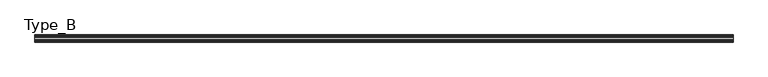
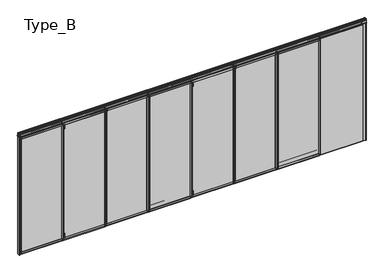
"""IFC4 building model written with IfcOpenShell, lengths in millimetres: proxy geometry, Planner Wall_ダブルガラス(NO Door) : Type_B."""

from ifc_helpers import new_model, si_unit, point, frame, frame_2d, origin, origin_with_axes, place, context, project, spatial, polyline, circle_curve, trimmed, segment, composite_curve, outline, extrude, source, transform, mapped, element, save


def type_b_6e2a2145(model_context):
    return source(origin(), model_context, "Body", "SweptSolid", [
        extrude(outline(polyline([(-2223.5, -25.0), (-2223.5, 25.0), (-1206.375, 25.0), (-1206.375, -25.0), (-2223.5, -25.0)])), origin_with_axes(), (0.0, 0.0, 1.0), 65.0),
        extrude(outline(polyline([(-1222.875, 25.0), (-2201.5, 25.0), (-2201.5, 35.0), (-1222.875, 35.0), (-1222.875, 25.0)])), frame((0.0, 0.0, 2935.0), z_axis=(0.0, 0.0, 1.0), x_axis=(1.0, 0.0, 0.0)), (0.0, 0.0, 1.0), 40.0),
        extrude(outline(polyline([(-1222.875, 25.0), (-2201.5, 25.0), (-2201.5, 35.0), (-1222.875, 35.0), (-1222.875, 25.0)])), frame((0.0, 0.0, 25.0), z_axis=(0.0, 0.0, 1.0), x_axis=(1.0, 0.0, 0.0)), (0.0, 0.0, 1.0), 40.0),
        extrude(outline(polyline([(-2183.5, -27.0), (-2201.5, -27.0), (-2201.5, 27.0), (-2183.5, 27.0), (-2183.5, -27.0)])), frame((0.0, 0.0, 65.0), z_axis=(0.0, 0.0, 1.0), x_axis=(1.0, 0.0, 0.0)), (0.0, 0.0, 1.0), 2870.0),
        extrude(outline(polyline([(-1222.875, -27.0), (-1240.875, -27.0), (-1240.875, 27.0), (-1222.875, 27.0), (-1222.875, -27.0)])), frame((0.0, 0.0, 65.0), z_axis=(0.0, 0.0, 1.0), x_axis=(1.0, 0.0, 0.0)), (0.0, 0.0, 1.0), 2870.0),
        extrude(outline(polyline([(-1240.875, -27.0), (-2183.5, -27.0), (-2183.5, 27.0), (-1240.875, 27.0), (-1240.875, -27.0)])), frame((0.0, 0.0, 65.0), z_axis=(0.0, 0.0, 1.0), x_axis=(1.0, 0.0, 0.0)), (0.0, 0.0, 1.0), 102.0),
        extrude(outline(polyline([(-1240.875, -27.0), (-2183.5, -27.0), (-2183.5, 27.0), (-1240.875, 27.0), (-1240.875, -27.0)])), frame((0.0, 0.0, 2833.0), z_axis=(0.0, 0.0, 1.0), x_axis=(1.0, 0.0, 0.0)), (0.0, 0.0, 1.0), 102.0),
        extrude(outline(composite_curve([segment(polyline([(23.5, 3050.1000003), (26.5, 3047.1000003), (26.5, 3032.6)]), True, "CONTINUOUS"), segment(trimmed(circle_curve(frame_2d((25.0, 3032.6)), 1.5), [point((26.5, 3032.6))], [point((25.0, 3031.1))], False, "CARTESIAN"), True, "CONTINUOUS"), segment(polyline([(25.0, 3031.1), (9.0, 3031.1), (9.0, 3019.1000003), (23.5, 3019.1000003), (26.5, 3016.1000003), (26.5, 3001.5)]), True, "CONTINUOUS"), segment(trimmed(circle_curve(frame_2d((25.0, 3001.5)), 1.5), [point((26.5, 3001.5))], [point((25.0, 3000.0))], False, "CARTESIAN"), True, "CONTINUOUS"), segment(polyline([(25.0, 3000.0), (7.5, 3000.0), (7.5, 2994.5), (25.0, 2994.5), (25.0, 2935.0), (-25.0, 2935.0), (-25.0, 2994.5), (-7.5, 2994.5), (-7.5, 3000.0), (-25.0, 3000.0)]), True, "CONTINUOUS"), segment(trimmed(circle_curve(frame_2d((-25.0, 3001.5)), 1.5), [point((-25.0, 3000.0))], [point((-26.5, 3001.5))], False, "CARTESIAN"), True, "CONTINUOUS"), segment(polyline([(-26.5, 3001.5), (-26.5, 3016.1000003), (-23.5, 3019.1000003), (-9.0, 3019.1000003), (-9.0, 3031.1), (-25.0, 3031.1)]), True, "CONTINUOUS"), segment(trimmed(circle_curve(frame_2d((-25.0, 3032.6)), 1.5), [point((-25.0, 3031.1))], [point((-26.5, 3032.6))], False, "CARTESIAN"), True, "CONTINUOUS"), segment(polyline([(-26.5, 3032.6), (-26.5, 3047.1000003), (-23.5, 3050.1000003), (23.5, 3050.1000003)]), True, "CONTINUOUS")], self_intersect=False)), frame((-2223.5, 0.0, 0.0), z_axis=(1.0, 0.0, 0.0), x_axis=(0.0, 1.0, 0.0)), (0.0, 0.0, 1.0), 1022.625),
        extrude(outline(polyline([(-1222.875, 27.5), (-2201.5, 27.5), (-2201.5, 32.5), (-1222.875, 32.5), (-1222.875, 27.5)])), frame((0.0, 0.0, 65.0), z_axis=(0.0, 0.0, 1.0), x_axis=(1.0, 0.0, 0.0)), (0.0, 0.0, 1.0), 2870.0),
        extrude(outline(polyline([(-1222.875, -32.5), (-2201.5, -32.5), (-2201.5, -27.5), (-1222.875, -27.5), (-1222.875, -32.5)])), frame((0.0, 0.0, 65.0), z_axis=(0.0, 0.0, 1.0), x_axis=(1.0, 0.0, 0.0)), (0.0, 0.0, 1.0), 2870.0),
        extrude(outline(polyline([(-1222.875, -35.0), (-2201.5, -35.0), (-2201.5, -25.0), (-1222.875, -25.0), (-1222.875, -35.0)])), frame((0.0, 0.0, 2935.0), z_axis=(0.0, 0.0, 1.0), x_axis=(1.0, 0.0, 0.0)), (0.0, 0.0, 1.0), 40.0),
        extrude(outline(polyline([(-1222.875, -35.0), (-2201.5, -35.0), (-2201.5, -25.0), (-1222.875, -25.0), (-1222.875, -35.0)])), frame((0.0, 0.0, 25.0), z_axis=(0.0, 0.0, 1.0), x_axis=(1.0, 0.0, 0.0)), (0.0, 0.0, 1.0), 40.0),
        extrude(outline(polyline([(-2237.0, -25.0), (-2237.0, 25.0), (-2223.5, 25.0), (-2223.5, -25.0), (-2237.0, -25.0)])), frame((0.0, 0.0, 53.0), z_axis=(0.0, 0.0, 1.0), x_axis=(1.0, 0.0, 0.0)), (0.0, 0.0, 1.0), 2869.0),
        extrude(outline(polyline([(-1222.875, 35.0), (-1200.875, 35.0), (-1200.875, 25.0), (-1222.875, 25.0), (-1222.875, 35.0)])), frame((0.0, 0.0, 25.0), z_axis=(0.0, 0.0, 1.0), x_axis=(1.0, 0.0, 0.0)), (0.0, 0.0, 1.0), 2950.0),
        extrude(outline(polyline([(-1222.875, -35.0), (-1222.875, -25.0), (-1200.875, -25.0), (-1200.875, -35.0), (-1222.875, -35.0)])), frame((0.0, 0.0, 25.0), z_axis=(0.0, 0.0, 1.0), x_axis=(1.0, 0.0, 0.0)), (0.0, 0.0, 1.0), 2950.0),
        extrude(outline(polyline([(-2223.5, -35.0), (-2223.5, -25.0), (-2201.5, -25.0), (-2201.5, -35.0), (-2223.5, -35.0)])), frame((0.0, 0.0, 25.0), z_axis=(0.0, 0.0, 1.0), x_axis=(1.0, 0.0, 0.0)), (0.0, 0.0, 1.0), 2950.0),
        extrude(outline(polyline([(-2223.5, 25.0), (-2223.5, 35.0), (-2201.5, 35.0), (-2201.5, 25.0), (-2223.5, 25.0)])), frame((0.0, 0.0, 25.0), z_axis=(0.0, 0.0, 1.0), x_axis=(1.0, 0.0, 0.0)), (0.0, 0.0, 1.0), 2950.0),
        extrude(outline(polyline([(-1192.875, -25.0), (-1192.875, 25.0), (-175.75, 25.0), (-175.75, -25.0), (-1192.875, -25.0)])), origin_with_axes(), (0.0, 0.0, 1.0), 65.0),
        extrude(outline(polyline([(-192.25, 25.0), (-1170.875, 25.0), (-1170.875, 35.0), (-192.25, 35.0), (-192.25, 25.0)])), frame((0.0, 0.0, 2935.0), z_axis=(0.0, 0.0, 1.0), x_axis=(1.0, 0.0, 0.0)), (0.0, 0.0, 1.0), 40.0),
        extrude(outline(polyline([(-192.25, 25.0), (-1170.875, 25.0), (-1170.875, 35.0), (-192.25, 35.0), (-192.25, 25.0)])), frame((0.0, 0.0, 25.0), z_axis=(0.0, 0.0, 1.0), x_axis=(1.0, 0.0, 0.0)), (0.0, 0.0, 1.0), 40.0),
        extrude(outline(polyline([(-1152.875, -27.0), (-1170.875, -27.0), (-1170.875, 27.0), (-1152.875, 27.0), (-1152.875, -27.0)])), frame((0.0, 0.0, 65.0), z_axis=(0.0, 0.0, 1.0), x_axis=(1.0, 0.0, 0.0)), (0.0, 0.0, 1.0), 2870.0),
        extrude(outline(polyline([(-192.25, -27.0), (-210.25, -27.0), (-210.25, 27.0), (-192.25, 27.0), (-192.25, -27.0)])), frame((0.0, 0.0, 65.0), z_axis=(0.0, 0.0, 1.0), x_axis=(1.0, 0.0, 0.0)), (0.0, 0.0, 1.0), 2870.0),
        extrude(outline(polyline([(-210.25, -27.0), (-1152.875, -27.0), (-1152.875, 27.0), (-210.25, 27.0), (-210.25, -27.0)])), frame((0.0, 0.0, 65.0), z_axis=(0.0, 0.0, 1.0), x_axis=(1.0, 0.0, 0.0)), (0.0, 0.0, 1.0), 102.0),
        extrude(outline(polyline([(-210.25, -27.0), (-1152.875, -27.0), (-1152.875, 27.0), (-210.25, 27.0), (-210.25, -27.0)])), frame((0.0, 0.0, 2833.0), z_axis=(0.0, 0.0, 1.0), x_axis=(1.0, 0.0, 0.0)), (0.0, 0.0, 1.0), 102.0),
        extrude(outline(composite_curve([segment(polyline([(23.5, 3050.1000003), (26.5, 3047.1000003), (26.5, 3032.6)]), True, "CONTINUOUS"), segment(trimmed(circle_curve(frame_2d((25.0, 3032.6)), 1.5), [point((26.5, 3032.6))], [point((25.0, 3031.1))], False, "CARTESIAN"), True, "CONTINUOUS"), segment(polyline([(25.0, 3031.1), (9.0, 3031.1), (9.0, 3019.1000003), (23.5, 3019.1000003), (26.5, 3016.1000003), (26.5, 3001.5)]), True, "CONTINUOUS"), segment(trimmed(circle_curve(frame_2d((25.0, 3001.5)), 1.5), [point((26.5, 3001.5))], [point((25.0, 3000.0))], False, "CARTESIAN"), True, "CONTINUOUS"), segment(polyline([(25.0, 3000.0), (7.5, 3000.0), (7.5, 2994.5), (25.0, 2994.5), (25.0, 2935.0), (-25.0, 2935.0), (-25.0, 2994.5), (-7.5, 2994.5), (-7.5, 3000.0), (-25.0, 3000.0)]), True, "CONTINUOUS"), segment(trimmed(circle_curve(frame_2d((-25.0, 3001.5)), 1.5), [point((-25.0, 3000.0))], [point((-26.5, 3001.5))], False, "CARTESIAN"), True, "CONTINUOUS"), segment(polyline([(-26.5, 3001.5), (-26.5, 3016.1000003), (-23.5, 3019.1000003), (-9.0, 3019.1000003), (-9.0, 3031.1), (-25.0, 3031.1)]), True, "CONTINUOUS"), segment(trimmed(circle_curve(frame_2d((-25.0, 3032.6)), 1.5), [point((-25.0, 3031.1))], [point((-26.5, 3032.6))], False, "CARTESIAN"), True, "CONTINUOUS"), segment(polyline([(-26.5, 3032.6), (-26.5, 3047.1000003), (-23.5, 3050.1000003), (23.5, 3050.1000003)]), True, "CONTINUOUS")], self_intersect=False)), frame((-1192.875, 0.0, 0.0), z_axis=(1.0, 0.0, 0.0), x_axis=(0.0, 1.0, 0.0)), (0.0, 0.0, 1.0), 1022.625),
        extrude(outline(polyline([(-192.25, 27.5), (-1170.875, 27.5), (-1170.875, 32.5), (-192.25, 32.5), (-192.25, 27.5)])), frame((0.0, 0.0, 65.0), z_axis=(0.0, 0.0, 1.0), x_axis=(1.0, 0.0, 0.0)), (0.0, 0.0, 1.0), 2870.0),
        extrude(outline(polyline([(-192.25, -32.5), (-1170.875, -32.5), (-1170.875, -27.5), (-192.25, -27.5), (-192.25, -32.5)])), frame((0.0, 0.0, 65.0), z_axis=(0.0, 0.0, 1.0), x_axis=(1.0, 0.0, 0.0)), (0.0, 0.0, 1.0), 2870.0),
        extrude(outline(polyline([(-192.25, -35.0), (-1170.875, -35.0), (-1170.875, -25.0), (-192.25, -25.0), (-192.25, -35.0)])), frame((0.0, 0.0, 2935.0), z_axis=(0.0, 0.0, 1.0), x_axis=(1.0, 0.0, 0.0)), (0.0, 0.0, 1.0), 40.0),
        extrude(outline(polyline([(-192.25, -35.0), (-1170.875, -35.0), (-1170.875, -25.0), (-192.25, -25.0), (-192.25, -35.0)])), frame((0.0, 0.0, 25.0), z_axis=(0.0, 0.0, 1.0), x_axis=(1.0, 0.0, 0.0)), (0.0, 0.0, 1.0), 40.0),
        extrude(outline(polyline([(-1206.375, -25.0), (-1206.375, 25.0), (-1192.875, 25.0), (-1192.875, -25.0), (-1206.375, -25.0)])), frame((0.0, 0.0, 53.0), z_axis=(0.0, 0.0, 1.0), x_axis=(1.0, 0.0, 0.0)), (0.0, 0.0, 1.0), 2869.0),
        extrude(outline(polyline([(-192.25, 35.0), (-170.25, 35.0), (-170.25, 25.0), (-192.25, 25.0), (-192.25, 35.0)])), frame((0.0, 0.0, 25.0), z_axis=(0.0, 0.0, 1.0), x_axis=(1.0, 0.0, 0.0)), (0.0, 0.0, 1.0), 2950.0),
        extrude(outline(polyline([(-192.25, -35.0), (-192.25, -25.0), (-170.25, -25.0), (-170.25, -35.0), (-192.25, -35.0)])), frame((0.0, 0.0, 25.0), z_axis=(0.0, 0.0, 1.0), x_axis=(1.0, 0.0, 0.0)), (0.0, 0.0, 1.0), 2950.0),
        extrude(outline(polyline([(-1192.875, -35.0), (-1192.875, -25.0), (-1170.875, -25.0), (-1170.875, -35.0), (-1192.875, -35.0)])), frame((0.0, 0.0, 25.0), z_axis=(0.0, 0.0, 1.0), x_axis=(1.0, 0.0, 0.0)), (0.0, 0.0, 1.0), 2950.0),
        extrude(outline(polyline([(-1192.875, 25.0), (-1192.875, 35.0), (-1170.875, 35.0), (-1170.875, 25.0), (-1192.875, 25.0)])), frame((0.0, 0.0, 25.0), z_axis=(0.0, 0.0, 1.0), x_axis=(1.0, 0.0, 0.0)), (0.0, 0.0, 1.0), 2950.0),
        extrude(outline(polyline([(-162.25, -25.0), (-162.25, 25.0), (854.875, 25.0), (854.875, -25.0), (-162.25, -25.0)])), origin_with_axes(), (0.0, 0.0, 1.0), 65.0),
        extrude(outline(polyline([(838.375, 25.0), (-140.25, 25.0), (-140.25, 35.0), (838.375, 35.0), (838.375, 25.0)])), frame((0.0, 0.0, 2935.0), z_axis=(0.0, 0.0, 1.0), x_axis=(1.0, 0.0, 0.0)), (0.0, 0.0, 1.0), 40.0),
        extrude(outline(polyline([(838.375, 25.0), (-140.25, 25.0), (-140.25, 35.0), (838.375, 35.0), (838.375, 25.0)])), frame((0.0, 0.0, 25.0), z_axis=(0.0, 0.0, 1.0), x_axis=(1.0, 0.0, 0.0)), (0.0, 0.0, 1.0), 40.0),
        extrude(outline(polyline([(-122.25, -27.0), (-140.25, -27.0), (-140.25, 27.0), (-122.25, 27.0), (-122.25, -27.0)])), frame((0.0, 0.0, 65.0), z_axis=(0.0, 0.0, 1.0), x_axis=(1.0, 0.0, 0.0)), (0.0, 0.0, 1.0), 2870.0),
        extrude(outline(polyline([(838.375, -27.0), (820.375, -27.0), (820.375, 27.0), (838.375, 27.0), (838.375, -27.0)])), frame((0.0, 0.0, 65.0), z_axis=(0.0, 0.0, 1.0), x_axis=(1.0, 0.0, 0.0)), (0.0, 0.0, 1.0), 2870.0),
        extrude(outline(polyline([(820.375, -27.0), (-122.25, -27.0), (-122.25, 27.0), (820.375, 27.0), (820.375, -27.0)])), frame((0.0, 0.0, 65.0), z_axis=(0.0, 0.0, 1.0), x_axis=(1.0, 0.0, 0.0)), (0.0, 0.0, 1.0), 102.0),
        extrude(outline(polyline([(820.375, -27.0), (-122.25, -27.0), (-122.25, 27.0), (820.375, 27.0), (820.375, -27.0)])), frame((0.0, 0.0, 2833.0), z_axis=(0.0, 0.0, 1.0), x_axis=(1.0, 0.0, 0.0)), (0.0, 0.0, 1.0), 102.0),
        extrude(outline(composite_curve([segment(polyline([(23.5, 3050.1000003), (26.5, 3047.1000003), (26.5, 3032.6)]), True, "CONTINUOUS"), segment(trimmed(circle_curve(frame_2d((25.0, 3032.6)), 1.5), [point((26.5, 3032.6))], [point((25.0, 3031.1))], False, "CARTESIAN"), True, "CONTINUOUS"), segment(polyline([(25.0, 3031.1), (9.0, 3031.1), (9.0, 3019.1000003), (23.5, 3019.1000003), (26.5, 3016.1000003), (26.5, 3001.5)]), True, "CONTINUOUS"), segment(trimmed(circle_curve(frame_2d((25.0, 3001.5)), 1.5), [point((26.5, 3001.5))], [point((25.0, 3000.0))], False, "CARTESIAN"), True, "CONTINUOUS"), segment(polyline([(25.0, 3000.0), (7.5, 3000.0), (7.5, 2994.5), (25.0, 2994.5), (25.0, 2935.0), (-25.0, 2935.0), (-25.0, 2994.5), (-7.5, 2994.5), (-7.5, 3000.0), (-25.0, 3000.0)]), True, "CONTINUOUS"), segment(trimmed(circle_curve(frame_2d((-25.0, 3001.5)), 1.5), [point((-25.0, 3000.0))], [point((-26.5, 3001.5))], False, "CARTESIAN"), True, "CONTINUOUS"), segment(polyline([(-26.5, 3001.5), (-26.5, 3016.1000003), (-23.5, 3019.1000003), (-9.0, 3019.1000003), (-9.0, 3031.1), (-25.0, 3031.1)]), True, "CONTINUOUS"), segment(trimmed(circle_curve(frame_2d((-25.0, 3032.6)), 1.5), [point((-25.0, 3031.1))], [point((-26.5, 3032.6))], False, "CARTESIAN"), True, "CONTINUOUS"), segment(polyline([(-26.5, 3032.6), (-26.5, 3047.1000003), (-23.5, 3050.1000003), (23.5, 3050.1000003)]), True, "CONTINUOUS")], self_intersect=False)), frame((-162.25, 0.0, 0.0), z_axis=(1.0, 0.0, 0.0), x_axis=(0.0, 1.0, 0.0)), (0.0, 0.0, 1.0), 1022.625),
        extrude(outline(polyline([(838.375, 27.5), (-140.25, 27.5), (-140.25, 32.5), (838.375, 32.5), (838.375, 27.5)])), frame((0.0, 0.0, 65.0), z_axis=(0.0, 0.0, 1.0), x_axis=(1.0, 0.0, 0.0)), (0.0, 0.0, 1.0), 2870.0),
        extrude(outline(polyline([(838.375, -32.5), (-140.25, -32.5), (-140.25, -27.5), (838.375, -27.5), (838.375, -32.5)])), frame((0.0, 0.0, 65.0), z_axis=(0.0, 0.0, 1.0), x_axis=(1.0, 0.0, 0.0)), (0.0, 0.0, 1.0), 2870.0),
        extrude(outline(polyline([(838.375, -35.0), (-140.25, -35.0), (-140.25, -25.0), (838.375, -25.0), (838.375, -35.0)])), frame((0.0, 0.0, 2935.0), z_axis=(0.0, 0.0, 1.0), x_axis=(1.0, 0.0, 0.0)), (0.0, 0.0, 1.0), 40.0),
        extrude(outline(polyline([(838.375, -35.0), (-140.25, -35.0), (-140.25, -25.0), (838.375, -25.0), (838.375, -35.0)])), frame((0.0, 0.0, 25.0), z_axis=(0.0, 0.0, 1.0), x_axis=(1.0, 0.0, 0.0)), (0.0, 0.0, 1.0), 40.0),
        extrude(outline(polyline([(-175.75, -25.0), (-175.75, 25.0), (-162.25, 25.0), (-162.25, -25.0), (-175.75, -25.0)])), frame((0.0, 0.0, 53.0), z_axis=(0.0, 0.0, 1.0), x_axis=(1.0, 0.0, 0.0)), (0.0, 0.0, 1.0), 2869.0),
        extrude(outline(polyline([(838.375, 35.0), (860.375, 35.0), (860.375, 25.0), (838.375, 25.0), (838.375, 35.0)])), frame((0.0, 0.0, 25.0), z_axis=(0.0, 0.0, 1.0), x_axis=(1.0, 0.0, 0.0)), (0.0, 0.0, 1.0), 2950.0),
        extrude(outline(polyline([(838.375, -35.0), (838.375, -25.0), (860.375, -25.0), (860.375, -35.0), (838.375, -35.0)])), frame((0.0, 0.0, 25.0), z_axis=(0.0, 0.0, 1.0), x_axis=(1.0, 0.0, 0.0)), (0.0, 0.0, 1.0), 2950.0),
        extrude(outline(polyline([(-162.25, -35.0), (-162.25, -25.0), (-140.25, -25.0), (-140.25, -35.0), (-162.25, -35.0)])), frame((0.0, 0.0, 25.0), z_axis=(0.0, 0.0, 1.0), x_axis=(1.0, 0.0, 0.0)), (0.0, 0.0, 1.0), 2950.0),
        extrude(outline(polyline([(-162.25, 25.0), (-162.25, 35.0), (-140.25, 35.0), (-140.25, 25.0), (-162.25, 25.0)])), frame((0.0, 0.0, 25.0), z_axis=(0.0, 0.0, 1.0), x_axis=(1.0, 0.0, 0.0)), (0.0, 0.0, 1.0), 2950.0),
        extrude(outline(polyline([(868.375, -25.0), (868.375, 25.0), (1885.5, 25.0), (1885.5, -25.0), (868.375, -25.0)])), origin_with_axes(), (0.0, 0.0, 1.0), 65.0),
        extrude(outline(polyline([(1869.0, 25.0), (890.375, 25.0), (890.375, 35.0), (1869.0, 35.0), (1869.0, 25.0)])), frame((0.0, 0.0, 2935.0), z_axis=(0.0, 0.0, 1.0), x_axis=(1.0, 0.0, 0.0)), (0.0, 0.0, 1.0), 40.0),
        extrude(outline(polyline([(1869.0, 25.0), (890.375, 25.0), (890.375, 35.0), (1869.0, 35.0), (1869.0, 25.0)])), frame((0.0, 0.0, 25.0), z_axis=(0.0, 0.0, 1.0), x_axis=(1.0, 0.0, 0.0)), (0.0, 0.0, 1.0), 40.0),
        extrude(outline(polyline([(908.375, -27.0), (890.375, -27.0), (890.375, 27.0), (908.375, 27.0), (908.375, -27.0)])), frame((0.0, 0.0, 65.0), z_axis=(0.0, 0.0, 1.0), x_axis=(1.0, 0.0, 0.0)), (0.0, 0.0, 1.0), 2870.0),
        extrude(outline(polyline([(1869.0, -27.0), (1851.0, -27.0), (1851.0, 27.0), (1869.0, 27.0), (1869.0, -27.0)])), frame((0.0, 0.0, 65.0), z_axis=(0.0, 0.0, 1.0), x_axis=(1.0, 0.0, 0.0)), (0.0, 0.0, 1.0), 2870.0),
        extrude(outline(polyline([(1851.0, -27.0), (908.375, -27.0), (908.375, 27.0), (1851.0, 27.0), (1851.0, -27.0)])), frame((0.0, 0.0, 65.0), z_axis=(0.0, 0.0, 1.0), x_axis=(1.0, 0.0, 0.0)), (0.0, 0.0, 1.0), 102.0),
        extrude(outline(polyline([(1851.0, -27.0), (908.375, -27.0), (908.375, 27.0), (1851.0, 27.0), (1851.0, -27.0)])), frame((0.0, 0.0, 2833.0), z_axis=(0.0, 0.0, 1.0), x_axis=(1.0, 0.0, 0.0)), (0.0, 0.0, 1.0), 102.0),
        extrude(outline(composite_curve([segment(polyline([(23.5, 3050.1000003), (26.5, 3047.1000003), (26.5, 3032.6)]), True, "CONTINUOUS"), segment(trimmed(circle_curve(frame_2d((25.0, 3032.6)), 1.5), [point((26.5, 3032.6))], [point((25.0, 3031.1))], False, "CARTESIAN"), True, "CONTINUOUS"), segment(polyline([(25.0, 3031.1), (9.0, 3031.1), (9.0, 3019.1000003), (23.5, 3019.1000003), (26.5, 3016.1000003), (26.5, 3001.5)]), True, "CONTINUOUS"), segment(trimmed(circle_curve(frame_2d((25.0, 3001.5)), 1.5), [point((26.5, 3001.5))], [point((25.0, 3000.0))], False, "CARTESIAN"), True, "CONTINUOUS"), segment(polyline([(25.0, 3000.0), (7.5, 3000.0), (7.5, 2994.5), (25.0, 2994.5), (25.0, 2935.0), (-25.0, 2935.0), (-25.0, 2994.5), (-7.5, 2994.5), (-7.5, 3000.0), (-25.0, 3000.0)]), True, "CONTINUOUS"), segment(trimmed(circle_curve(frame_2d((-25.0, 3001.5)), 1.5), [point((-25.0, 3000.0))], [point((-26.5, 3001.5))], False, "CARTESIAN"), True, "CONTINUOUS"), segment(polyline([(-26.5, 3001.5), (-26.5, 3016.1000003), (-23.5, 3019.1000003), (-9.0, 3019.1000003), (-9.0, 3031.1), (-25.0, 3031.1)]), True, "CONTINUOUS"), segment(trimmed(circle_curve(frame_2d((-25.0, 3032.6)), 1.5), [point((-25.0, 3031.1))], [point((-26.5, 3032.6))], False, "CARTESIAN"), True, "CONTINUOUS"), segment(polyline([(-26.5, 3032.6), (-26.5, 3047.1000003), (-23.5, 3050.1000003), (23.5, 3050.1000003)]), True, "CONTINUOUS")], self_intersect=False)), frame((868.375, 0.0, 0.0), z_axis=(1.0, 0.0, 0.0), x_axis=(0.0, 1.0, 0.0)), (0.0, 0.0, 1.0), 1022.625),
        extrude(outline(polyline([(1869.0, 27.5), (890.375, 27.5), (890.375, 32.5), (1869.0, 32.5), (1869.0, 27.5)])), frame((0.0, 0.0, 65.0), z_axis=(0.0, 0.0, 1.0), x_axis=(1.0, 0.0, 0.0)), (0.0, 0.0, 1.0), 2870.0),
        extrude(outline(polyline([(1869.0, -32.5), (890.375, -32.5), (890.375, -27.5), (1869.0, -27.5), (1869.0, -32.5)])), frame((0.0, 0.0, 65.0), z_axis=(0.0, 0.0, 1.0), x_axis=(1.0, 0.0, 0.0)), (0.0, 0.0, 1.0), 2870.0),
        extrude(outline(polyline([(1869.0, -35.0), (890.375, -35.0), (890.375, -25.0), (1869.0, -25.0), (1869.0, -35.0)])), frame((0.0, 0.0, 2935.0), z_axis=(0.0, 0.0, 1.0), x_axis=(1.0, 0.0, 0.0)), (0.0, 0.0, 1.0), 40.0),
        extrude(outline(polyline([(1869.0, -35.0), (890.375, -35.0), (890.375, -25.0), (1869.0, -25.0), (1869.0, -35.0)])), frame((0.0, 0.0, 25.0), z_axis=(0.0, 0.0, 1.0), x_axis=(1.0, 0.0, 0.0)), (0.0, 0.0, 1.0), 40.0),
        extrude(outline(polyline([(854.875, -25.0), (854.875, 25.0), (868.375, 25.0), (868.375, -25.0), (854.875, -25.0)])), frame((0.0, 0.0, 53.0), z_axis=(0.0, 0.0, 1.0), x_axis=(1.0, 0.0, 0.0)), (0.0, 0.0, 1.0), 2869.0),
        extrude(outline(polyline([(1869.0, 35.0), (1891.0, 35.0), (1891.0, 25.0), (1869.0, 25.0), (1869.0, 35.0)])), frame((0.0, 0.0, 25.0), z_axis=(0.0, 0.0, 1.0), x_axis=(1.0, 0.0, 0.0)), (0.0, 0.0, 1.0), 2950.0),
        extrude(outline(polyline([(1869.0, -35.0), (1869.0, -25.0), (1891.0, -25.0), (1891.0, -35.0), (1869.0, -35.0)])), frame((0.0, 0.0, 25.0), z_axis=(0.0, 0.0, 1.0), x_axis=(1.0, 0.0, 0.0)), (0.0, 0.0, 1.0), 2950.0),
        extrude(outline(polyline([(868.375, -35.0), (868.375, -25.0), (890.375, -25.0), (890.375, -35.0), (868.375, -35.0)])), frame((0.0, 0.0, 25.0), z_axis=(0.0, 0.0, 1.0), x_axis=(1.0, 0.0, 0.0)), (0.0, 0.0, 1.0), 2950.0),
        extrude(outline(polyline([(868.375, 25.0), (868.375, 35.0), (890.375, 35.0), (890.375, 25.0), (868.375, 25.0)])), frame((0.0, 0.0, 25.0), z_axis=(0.0, 0.0, 1.0), x_axis=(1.0, 0.0, 0.0)), (0.0, 0.0, 1.0), 2950.0),
        extrude(outline(polyline([(1899.0, -25.0), (1899.0, 25.0), (2916.125, 25.0), (2916.125, -25.0), (1899.0, -25.0)])), origin_with_axes(), (0.0, 0.0, 1.0), 65.0),
        extrude(outline(polyline([(2899.625, 25.0), (1921.0, 25.0), (1921.0, 35.0), (2899.625, 35.0), (2899.625, 25.0)])), frame((0.0, 0.0, 2935.0), z_axis=(0.0, 0.0, 1.0), x_axis=(1.0, 0.0, 0.0)), (0.0, 0.0, 1.0), 40.0),
        extrude(outline(polyline([(2899.625, 25.0), (1921.0, 25.0), (1921.0, 35.0), (2899.625, 35.0), (2899.625, 25.0)])), frame((0.0, 0.0, 25.0), z_axis=(0.0, 0.0, 1.0), x_axis=(1.0, 0.0, 0.0)), (0.0, 0.0, 1.0), 40.0),
        extrude(outline(polyline([(1939.0, -27.0), (1921.0, -27.0), (1921.0, 27.0), (1939.0, 27.0), (1939.0, -27.0)])), frame((0.0, 0.0, 65.0), z_axis=(0.0, 0.0, 1.0), x_axis=(1.0, 0.0, 0.0)), (0.0, 0.0, 1.0), 2870.0),
        extrude(outline(polyline([(2899.625, -27.0), (2881.625, -27.0), (2881.625, 27.0), (2899.625, 27.0), (2899.625, -27.0)])), frame((0.0, 0.0, 65.0), z_axis=(0.0, 0.0, 1.0), x_axis=(1.0, 0.0, 0.0)), (0.0, 0.0, 1.0), 2870.0),
        extrude(outline(polyline([(2881.625, -27.0), (1939.0, -27.0), (1939.0, 27.0), (2881.625, 27.0), (2881.625, -27.0)])), frame((0.0, 0.0, 65.0), z_axis=(0.0, 0.0, 1.0), x_axis=(1.0, 0.0, 0.0)), (0.0, 0.0, 1.0), 102.0),
        extrude(outline(polyline([(2881.625, -27.0), (1939.0, -27.0), (1939.0, 27.0), (2881.625, 27.0), (2881.625, -27.0)])), frame((0.0, 0.0, 2833.0), z_axis=(0.0, 0.0, 1.0), x_axis=(1.0, 0.0, 0.0)), (0.0, 0.0, 1.0), 102.0),
        extrude(outline(composite_curve([segment(polyline([(23.5, 3050.1000003), (26.5, 3047.1000003), (26.5, 3032.6)]), True, "CONTINUOUS"), segment(trimmed(circle_curve(frame_2d((25.0, 3032.6)), 1.5), [point((26.5, 3032.6))], [point((25.0, 3031.1))], False, "CARTESIAN"), True, "CONTINUOUS"), segment(polyline([(25.0, 3031.1), (9.0, 3031.1), (9.0, 3019.1000003), (23.5, 3019.1000003), (26.5, 3016.1000003), (26.5, 3001.5)]), True, "CONTINUOUS"), segment(trimmed(circle_curve(frame_2d((25.0, 3001.5)), 1.5), [point((26.5, 3001.5))], [point((25.0, 3000.0))], False, "CARTESIAN"), True, "CONTINUOUS"), segment(polyline([(25.0, 3000.0), (7.5, 3000.0), (7.5, 2994.5), (25.0, 2994.5), (25.0, 2935.0), (-25.0, 2935.0), (-25.0, 2994.5), (-7.5, 2994.5), (-7.5, 3000.0), (-25.0, 3000.0)]), True, "CONTINUOUS"), segment(trimmed(circle_curve(frame_2d((-25.0, 3001.5)), 1.5), [point((-25.0, 3000.0))], [point((-26.5, 3001.5))], False, "CARTESIAN"), True, "CONTINUOUS"), segment(polyline([(-26.5, 3001.5), (-26.5, 3016.1000003), (-23.5, 3019.1000003), (-9.0, 3019.1000003), (-9.0, 3031.1), (-25.0, 3031.1)]), True, "CONTINUOUS"), segment(trimmed(circle_curve(frame_2d((-25.0, 3032.6)), 1.5), [point((-25.0, 3031.1))], [point((-26.5, 3032.6))], False, "CARTESIAN"), True, "CONTINUOUS"), segment(polyline([(-26.5, 3032.6), (-26.5, 3047.1000003), (-23.5, 3050.1000003), (23.5, 3050.1000003)]), True, "CONTINUOUS")], self_intersect=False)), frame((1899.0, 0.0, 0.0), z_axis=(1.0, 0.0, 0.0), x_axis=(0.0, 1.0, 0.0)), (0.0, 0.0, 1.0), 1022.625),
        extrude(outline(polyline([(2899.625, 27.5), (1921.0, 27.5), (1921.0, 32.5), (2899.625, 32.5), (2899.625, 27.5)])), frame((0.0, 0.0, 65.0), z_axis=(0.0, 0.0, 1.0), x_axis=(1.0, 0.0, 0.0)), (0.0, 0.0, 1.0), 2870.0),
        extrude(outline(polyline([(2899.625, -32.5), (1921.0, -32.5), (1921.0, -27.5), (2899.625, -27.5), (2899.625, -32.5)])), frame((0.0, 0.0, 65.0), z_axis=(0.0, 0.0, 1.0), x_axis=(1.0, 0.0, 0.0)), (0.0, 0.0, 1.0), 2870.0),
        extrude(outline(polyline([(2899.625, -35.0), (1921.0, -35.0), (1921.0, -25.0), (2899.625, -25.0), (2899.625, -35.0)])), frame((0.0, 0.0, 2935.0), z_axis=(0.0, 0.0, 1.0), x_axis=(1.0, 0.0, 0.0)), (0.0, 0.0, 1.0), 40.0),
        extrude(outline(polyline([(2899.625, -35.0), (1921.0, -35.0), (1921.0, -25.0), (2899.625, -25.0), (2899.625, -35.0)])), frame((0.0, 0.0, 25.0), z_axis=(0.0, 0.0, 1.0), x_axis=(1.0, 0.0, 0.0)), (0.0, 0.0, 1.0), 40.0),
        extrude(outline(polyline([(1885.5, -25.0), (1885.5, 25.0), (1899.0, 25.0), (1899.0, -25.0), (1885.5, -25.0)])), frame((0.0, 0.0, 53.0), z_axis=(0.0, 0.0, 1.0), x_axis=(1.0, 0.0, 0.0)), (0.0, 0.0, 1.0), 2869.0),
        extrude(outline(polyline([(2899.625, 35.0), (2921.625, 35.0), (2921.625, 25.0), (2899.625, 25.0), (2899.625, 35.0)])), frame((0.0, 0.0, 25.0), z_axis=(0.0, 0.0, 1.0), x_axis=(1.0, 0.0, 0.0)), (0.0, 0.0, 1.0), 2950.0),
        extrude(outline(polyline([(2899.625, -35.0), (2899.625, -25.0), (2921.625, -25.0), (2921.625, -35.0), (2899.625, -35.0)])), frame((0.0, 0.0, 25.0), z_axis=(0.0, 0.0, 1.0), x_axis=(1.0, 0.0, 0.0)), (0.0, 0.0, 1.0), 2950.0),
        extrude(outline(polyline([(1899.0, -35.0), (1899.0, -25.0), (1921.0, -25.0), (1921.0, -35.0), (1899.0, -35.0)])), frame((0.0, 0.0, 25.0), z_axis=(0.0, 0.0, 1.0), x_axis=(1.0, 0.0, 0.0)), (0.0, 0.0, 1.0), 2950.0),
        extrude(outline(polyline([(1899.0, 25.0), (1899.0, 35.0), (1921.0, 35.0), (1921.0, 25.0), (1899.0, 25.0)])), frame((0.0, 0.0, 25.0), z_axis=(0.0, 0.0, 1.0), x_axis=(1.0, 0.0, 0.0)), (0.0, 0.0, 1.0), 2950.0),
        extrude(outline(polyline([(2929.625, -25.0), (2929.625, 25.0), (3946.75, 25.0), (3946.75, -25.0), (2929.625, -25.0)])), origin_with_axes(), (0.0, 0.0, 1.0), 65.0),
        extrude(outline(polyline([(3930.25, 25.0), (2951.625, 25.0), (2951.625, 35.0), (3930.25, 35.0), (3930.25, 25.0)])), frame((0.0, 0.0, 2935.0), z_axis=(0.0, 0.0, 1.0), x_axis=(1.0, 0.0, 0.0)), (0.0, 0.0, 1.0), 40.0),
        extrude(outline(polyline([(3930.25, 25.0), (2951.625, 25.0), (2951.625, 35.0), (3930.25, 35.0), (3930.25, 25.0)])), frame((0.0, 0.0, 25.0), z_axis=(0.0, 0.0, 1.0), x_axis=(1.0, 0.0, 0.0)), (0.0, 0.0, 1.0), 40.0),
        extrude(outline(polyline([(2969.625, -27.0), (2951.625, -27.0), (2951.625, 27.0), (2969.625, 27.0), (2969.625, -27.0)])), frame((0.0, 0.0, 65.0), z_axis=(0.0, 0.0, 1.0), x_axis=(1.0, 0.0, 0.0)), (0.0, 0.0, 1.0), 2870.0),
        extrude(outline(polyline([(3930.25, -27.0), (3912.25, -27.0), (3912.25, 27.0), (3930.25, 27.0), (3930.25, -27.0)])), frame((0.0, 0.0, 65.0), z_axis=(0.0, 0.0, 1.0), x_axis=(1.0, 0.0, 0.0)), (0.0, 0.0, 1.0), 2870.0),
        extrude(outline(polyline([(3912.25, -27.0), (2969.625, -27.0), (2969.625, 27.0), (3912.25, 27.0), (3912.25, -27.0)])), frame((0.0, 0.0, 65.0), z_axis=(0.0, 0.0, 1.0), x_axis=(1.0, 0.0, 0.0)), (0.0, 0.0, 1.0), 102.0),
        extrude(outline(polyline([(3912.25, -27.0), (2969.625, -27.0), (2969.625, 27.0), (3912.25, 27.0), (3912.25, -27.0)])), frame((0.0, 0.0, 2833.0), z_axis=(0.0, 0.0, 1.0), x_axis=(1.0, 0.0, 0.0)), (0.0, 0.0, 1.0), 102.0),
        extrude(outline(composite_curve([segment(polyline([(23.5, 3050.1000003), (26.5, 3047.1000003), (26.5, 3032.6)]), True, "CONTINUOUS"), segment(trimmed(circle_curve(frame_2d((25.0, 3032.6)), 1.5), [point((26.5, 3032.6))], [point((25.0, 3031.1))], False, "CARTESIAN"), True, "CONTINUOUS"), segment(polyline([(25.0, 3031.1), (9.0, 3031.1), (9.0, 3019.1000003), (23.5, 3019.1000003), (26.5, 3016.1000003), (26.5, 3001.5)]), True, "CONTINUOUS"), segment(trimmed(circle_curve(frame_2d((25.0, 3001.5)), 1.5), [point((26.5, 3001.5))], [point((25.0, 3000.0))], False, "CARTESIAN"), True, "CONTINUOUS"), segment(polyline([(25.0, 3000.0), (7.5, 3000.0), (7.5, 2994.5), (25.0, 2994.5), (25.0, 2935.0), (-25.0, 2935.0), (-25.0, 2994.5), (-7.5, 2994.5), (-7.5, 3000.0), (-25.0, 3000.0)]), True, "CONTINUOUS"), segment(trimmed(circle_curve(frame_2d((-25.0, 3001.5)), 1.5), [point((-25.0, 3000.0))], [point((-26.5, 3001.5))], False, "CARTESIAN"), True, "CONTINUOUS"), segment(polyline([(-26.5, 3001.5), (-26.5, 3016.1000003), (-23.5, 3019.1000003), (-9.0, 3019.1000003), (-9.0, 3031.1), (-25.0, 3031.1)]), True, "CONTINUOUS"), segment(trimmed(circle_curve(frame_2d((-25.0, 3032.6)), 1.5), [point((-25.0, 3031.1))], [point((-26.5, 3032.6))], False, "CARTESIAN"), True, "CONTINUOUS"), segment(polyline([(-26.5, 3032.6), (-26.5, 3047.1000003), (-23.5, 3050.1000003), (23.5, 3050.1000003)]), True, "CONTINUOUS")], self_intersect=False)), frame((2929.625, 0.0, 0.0), z_axis=(1.0, 0.0, 0.0), x_axis=(0.0, 1.0, 0.0)), (0.0, 0.0, 1.0), 1022.625),
        extrude(outline(polyline([(3930.25, 27.5), (2951.625, 27.5), (2951.625, 32.5), (3930.25, 32.5), (3930.25, 27.5)])), frame((0.0, 0.0, 65.0), z_axis=(0.0, 0.0, 1.0), x_axis=(1.0, 0.0, 0.0)), (0.0, 0.0, 1.0), 2870.0),
        extrude(outline(polyline([(3930.25, -32.5), (2951.625, -32.5), (2951.625, -27.5), (3930.25, -27.5), (3930.25, -32.5)])), frame((0.0, 0.0, 65.0), z_axis=(0.0, 0.0, 1.0), x_axis=(1.0, 0.0, 0.0)), (0.0, 0.0, 1.0), 2870.0),
        extrude(outline(polyline([(3930.25, -35.0), (2951.625, -35.0), (2951.625, -25.0), (3930.25, -25.0), (3930.25, -35.0)])), frame((0.0, 0.0, 2935.0), z_axis=(0.0, 0.0, 1.0), x_axis=(1.0, 0.0, 0.0)), (0.0, 0.0, 1.0), 40.0),
        extrude(outline(polyline([(3930.25, -35.0), (2951.625, -35.0), (2951.625, -25.0), (3930.25, -25.0), (3930.25, -35.0)])), frame((0.0, 0.0, 25.0), z_axis=(0.0, 0.0, 1.0), x_axis=(1.0, 0.0, 0.0)), (0.0, 0.0, 1.0), 40.0),
        extrude(outline(polyline([(2916.125, -25.0), (2916.125, 25.0), (2929.625, 25.0), (2929.625, -25.0), (2916.125, -25.0)])), frame((0.0, 0.0, 53.0), z_axis=(0.0, 0.0, 1.0), x_axis=(1.0, 0.0, 0.0)), (0.0, 0.0, 1.0), 2869.0),
        extrude(outline(polyline([(3930.25, 35.0), (3952.25, 35.0), (3952.25, 25.0), (3930.25, 25.0), (3930.25, 35.0)])), frame((0.0, 0.0, 25.0), z_axis=(0.0, 0.0, 1.0), x_axis=(1.0, 0.0, 0.0)), (0.0, 0.0, 1.0), 2950.0),
        extrude(outline(polyline([(3930.25, -35.0), (3930.25, -25.0), (3952.25, -25.0), (3952.25, -35.0), (3930.25, -35.0)])), frame((0.0, 0.0, 25.0), z_axis=(0.0, 0.0, 1.0), x_axis=(1.0, 0.0, 0.0)), (0.0, 0.0, 1.0), 2950.0),
        extrude(outline(polyline([(2929.625, -35.0), (2929.625, -25.0), (2951.625, -25.0), (2951.625, -35.0), (2929.625, -35.0)])), frame((0.0, 0.0, 25.0), z_axis=(0.0, 0.0, 1.0), x_axis=(1.0, 0.0, 0.0)), (0.0, 0.0, 1.0), 2950.0),
        extrude(outline(polyline([(2929.625, 25.0), (2929.625, 35.0), (2951.625, 35.0), (2951.625, 25.0), (2929.625, 25.0)])), frame((0.0, 0.0, 25.0), z_axis=(0.0, 0.0, 1.0), x_axis=(1.0, 0.0, 0.0)), (0.0, 0.0, 1.0), 2950.0),
        extrude(outline(polyline([(3960.25, -25.0), (3960.25, 25.0), (4977.375, 25.0), (4977.375, -25.0), (3960.25, -25.0)])), origin_with_axes(), (0.0, 0.0, 1.0), 65.0),
        extrude(outline(polyline([(4960.875, 25.0), (3982.25, 25.0), (3982.25, 35.0), (4960.875, 35.0), (4960.875, 25.0)])), frame((0.0, 0.0, 2935.0), z_axis=(0.0, 0.0, 1.0), x_axis=(1.0, 0.0, 0.0)), (0.0, 0.0, 1.0), 40.0),
        extrude(outline(polyline([(4960.875, 25.0), (3982.25, 25.0), (3982.25, 35.0), (4960.875, 35.0), (4960.875, 25.0)])), frame((0.0, 0.0, 25.0), z_axis=(0.0, 0.0, 1.0), x_axis=(1.0, 0.0, 0.0)), (0.0, 0.0, 1.0), 40.0),
        extrude(outline(polyline([(4000.25, -27.0), (3982.25, -27.0), (3982.25, 27.0), (4000.25, 27.0), (4000.25, -27.0)])), frame((0.0, 0.0, 65.0), z_axis=(0.0, 0.0, 1.0), x_axis=(1.0, 0.0, 0.0)), (0.0, 0.0, 1.0), 2870.0),
        extrude(outline(polyline([(4960.875, -27.0), (4942.875, -27.0), (4942.875, 27.0), (4960.875, 27.0), (4960.875, -27.0)])), frame((0.0, 0.0, 65.0), z_axis=(0.0, 0.0, 1.0), x_axis=(1.0, 0.0, 0.0)), (0.0, 0.0, 1.0), 2870.0),
        extrude(outline(polyline([(4942.875, -27.0), (4000.25, -27.0), (4000.25, 27.0), (4942.875, 27.0), (4942.875, -27.0)])), frame((0.0, 0.0, 65.0), z_axis=(0.0, 0.0, 1.0), x_axis=(1.0, 0.0, 0.0)), (0.0, 0.0, 1.0), 102.0),
        extrude(outline(polyline([(4942.875, -27.0), (4000.25, -27.0), (4000.25, 27.0), (4942.875, 27.0), (4942.875, -27.0)])), frame((0.0, 0.0, 2833.0), z_axis=(0.0, 0.0, 1.0), x_axis=(1.0, 0.0, 0.0)), (0.0, 0.0, 1.0), 102.0),
        extrude(outline(composite_curve([segment(polyline([(23.5, 3050.1000003), (26.5, 3047.1000003), (26.5, 3032.6)]), True, "CONTINUOUS"), segment(trimmed(circle_curve(frame_2d((25.0, 3032.6)), 1.5), [point((26.5, 3032.6))], [point((25.0, 3031.1))], False, "CARTESIAN"), True, "CONTINUOUS"), segment(polyline([(25.0, 3031.1), (9.0, 3031.1), (9.0, 3019.1000003), (23.5, 3019.1000003), (26.5, 3016.1000003), (26.5, 3001.5)]), True, "CONTINUOUS"), segment(trimmed(circle_curve(frame_2d((25.0, 3001.5)), 1.5), [point((26.5, 3001.5))], [point((25.0, 3000.0))], False, "CARTESIAN"), True, "CONTINUOUS"), segment(polyline([(25.0, 3000.0), (7.5, 3000.0), (7.5, 2994.5), (25.0, 2994.5), (25.0, 2935.0), (-25.0, 2935.0), (-25.0, 2994.5), (-7.5, 2994.5), (-7.5, 3000.0), (-25.0, 3000.0)]), True, "CONTINUOUS"), segment(trimmed(circle_curve(frame_2d((-25.0, 3001.5)), 1.5), [point((-25.0, 3000.0))], [point((-26.5, 3001.5))], False, "CARTESIAN"), True, "CONTINUOUS"), segment(polyline([(-26.5, 3001.5), (-26.5, 3016.1000003), (-23.5, 3019.1000003), (-9.0, 3019.1000003), (-9.0, 3031.1), (-25.0, 3031.1)]), True, "CONTINUOUS"), segment(trimmed(circle_curve(frame_2d((-25.0, 3032.6)), 1.5), [point((-25.0, 3031.1))], [point((-26.5, 3032.6))], False, "CARTESIAN"), True, "CONTINUOUS"), segment(polyline([(-26.5, 3032.6), (-26.5, 3047.1000003), (-23.5, 3050.1000003), (23.5, 3050.1000003)]), True, "CONTINUOUS")], self_intersect=False)), frame((3960.25, 0.0, 0.0), z_axis=(1.0, 0.0, 0.0), x_axis=(0.0, 1.0, 0.0)), (0.0, 0.0, 1.0), 1022.625),
        extrude(outline(polyline([(4960.875, 27.5), (3982.25, 27.5), (3982.25, 32.5), (4960.875, 32.5), (4960.875, 27.5)])), frame((0.0, 0.0, 65.0), z_axis=(0.0, 0.0, 1.0), x_axis=(1.0, 0.0, 0.0)), (0.0, 0.0, 1.0), 2870.0),
        extrude(outline(polyline([(4960.875, -32.5), (3982.25, -32.5), (3982.25, -27.5), (4960.875, -27.5), (4960.875, -32.5)])), frame((0.0, 0.0, 65.0), z_axis=(0.0, 0.0, 1.0), x_axis=(1.0, 0.0, 0.0)), (0.0, 0.0, 1.0), 2870.0),
        extrude(outline(polyline([(4960.875, -35.0), (3982.25, -35.0), (3982.25, -25.0), (4960.875, -25.0), (4960.875, -35.0)])), frame((0.0, 0.0, 2935.0), z_axis=(0.0, 0.0, 1.0), x_axis=(1.0, 0.0, 0.0)), (0.0, 0.0, 1.0), 40.0),
        extrude(outline(polyline([(4960.875, -35.0), (3982.25, -35.0), (3982.25, -25.0), (4960.875, -25.0), (4960.875, -35.0)])), frame((0.0, 0.0, 25.0), z_axis=(0.0, 0.0, 1.0), x_axis=(1.0, 0.0, 0.0)), (0.0, 0.0, 1.0), 40.0),
        extrude(outline(polyline([(3946.75, -25.0), (3946.75, 25.0), (3960.25, 25.0), (3960.25, -25.0), (3946.75, -25.0)])), frame((0.0, 0.0, 53.0), z_axis=(0.0, 0.0, 1.0), x_axis=(1.0, 0.0, 0.0)), (0.0, 0.0, 1.0), 2869.0),
        extrude(outline(polyline([(4960.875, 35.0), (4982.875, 35.0), (4982.875, 25.0), (4960.875, 25.0), (4960.875, 35.0)])), frame((0.0, 0.0, 25.0), z_axis=(0.0, 0.0, 1.0), x_axis=(1.0, 0.0, 0.0)), (0.0, 0.0, 1.0), 2950.0),
        extrude(outline(polyline([(4960.875, -35.0), (4960.875, -25.0), (4982.875, -25.0), (4982.875, -35.0), (4960.875, -35.0)])), frame((0.0, 0.0, 25.0), z_axis=(0.0, 0.0, 1.0), x_axis=(1.0, 0.0, 0.0)), (0.0, 0.0, 1.0), 2950.0),
        extrude(outline(polyline([(3960.25, -35.0), (3960.25, -25.0), (3982.25, -25.0), (3982.25, -35.0), (3960.25, -35.0)])), frame((0.0, 0.0, 25.0), z_axis=(0.0, 0.0, 1.0), x_axis=(1.0, 0.0, 0.0)), (0.0, 0.0, 1.0), 2950.0),
        extrude(outline(polyline([(3960.25, 25.0), (3960.25, 35.0), (3982.25, 35.0), (3982.25, 25.0), (3960.25, 25.0)])), frame((0.0, 0.0, 25.0), z_axis=(0.0, 0.0, 1.0), x_axis=(1.0, 0.0, 0.0)), (0.0, 0.0, 1.0), 2950.0),
        extrude(outline(polyline([(4990.875, -25.0), (4990.875, 25.0), (6008.0, 25.0), (6008.0, -25.0), (4990.875, -25.0)])), origin_with_axes(), (0.0, 0.0, 1.0), 65.0),
        extrude(outline(polyline([(6008.0, -19.5), (6008.0, 19.5), (6090.5, 19.5), (6090.5, 25.0), (6097.0, 25.0), (6097.0, -25.0), (6090.5, -25.0), (6090.5, -19.5), (6008.0, -19.5)])), origin_with_axes(), (0.0, 0.0, 1.0), 2994.0),
        extrude(outline(composite_curve([segment(polyline([(23.5, 3050.1000003), (26.5, 3047.1000003), (26.5, 3032.6)]), True, "CONTINUOUS"), segment(trimmed(circle_curve(frame_2d((25.0, 3032.6)), 1.5), [point((26.5, 3032.6))], [point((25.0, 3031.1))], False, "CARTESIAN"), True, "CONTINUOUS"), segment(polyline([(25.0, 3031.1), (9.0, 3031.1), (9.0, 3019.1000003), (23.5, 3019.1000003), (26.5, 3016.1000003), (26.5, 3001.5)]), True, "CONTINUOUS"), segment(trimmed(circle_curve(frame_2d((25.0, 3001.5)), 1.5), [point((26.5, 3001.5))], [point((25.0, 3000.0))], False, "CARTESIAN"), True, "CONTINUOUS"), segment(polyline([(25.0, 3000.0), (7.5, 3000.0), (7.5, 2994.5), (25.0, 2994.5), (25.0, 2935.0), (-25.0, 2935.0), (-25.0, 2994.5), (-7.5, 2994.5), (-7.5, 3000.0), (-25.0, 3000.0)]), True, "CONTINUOUS"), segment(trimmed(circle_curve(frame_2d((-25.0, 3001.5)), 1.5), [point((-25.0, 3000.0))], [point((-26.5, 3001.5))], False, "CARTESIAN"), True, "CONTINUOUS"), segment(polyline([(-26.5, 3001.5), (-26.5, 3016.1000003), (-23.5, 3019.1000003), (-9.0, 3019.1000003), (-9.0, 3031.1), (-25.0, 3031.1)]), True, "CONTINUOUS"), segment(trimmed(circle_curve(frame_2d((-25.0, 3032.6)), 1.5), [point((-25.0, 3031.1))], [point((-26.5, 3032.6))], False, "CARTESIAN"), True, "CONTINUOUS"), segment(polyline([(-26.5, 3032.6), (-26.5, 3047.1000003), (-23.5, 3050.1000003), (23.5, 3050.1000003)]), True, "CONTINUOUS")], self_intersect=False)), frame((4990.875, 0.0, 0.0), z_axis=(1.0, 0.0, 0.0), x_axis=(0.0, 1.0, 0.0)), (0.0, 0.0, 1.0), 1022.625),
        extrude(outline(polyline([(6013.5, 24.9), (4990.875, 24.9), (4990.875, 35.0), (6013.5, 35.0), (6013.5, 24.9)])), frame((0.0, 0.0, 25.0), z_axis=(0.0, 0.0, 1.0), x_axis=(1.0, 0.0, 0.0)), (0.0, 0.0, 1.0), 2950.0),
        extrude(outline(polyline([(6013.5, -35.0), (4990.875, -35.0), (4990.875, -24.9), (6013.5, -24.9), (6013.5, -35.0)])), frame((0.0, 0.0, 25.0), z_axis=(0.0, 0.0, 1.0), x_axis=(1.0, 0.0, 0.0)), (0.0, 0.0, 1.0), 2950.0),
        extrude(outline(polyline([(4977.375, -25.0), (4977.375, 25.0), (4990.875, 25.0), (4990.875, -25.0), (4977.375, -25.0)])), frame((0.0, 0.0, 78.0), z_axis=(0.0, 0.0, 1.0), x_axis=(1.0, 0.0, 0.0)), (0.0, 0.0, 1.0), 2897.0),
        extrude(outline(polyline([(-2245.0, -35.0), (-2245.0, 35.0), (-2231.5, 35.0), (-2231.5, 25.0), (-2237.0, 25.0), (-2237.0, -25.0), (-2231.5, -25.0), (-2231.5, -35.0), (-2245.0, -35.0)])), origin_with_axes(), (0.0, 0.0, 1.0), 2994.0),
        extrude(outline(composite_curve([segment(trimmed(circle_curve(frame_2d((-26.5, 3056.0)), 5.0), [point((-31.5, 3056.0))], [point((-26.1165175, 3060.9852724))], False, "CARTESIAN"), True, "CONTINUOUS"), segment(polyline([(-26.1165175, 3060.9852724), (-24.5, 3060.9852724), (-24.5, 3075.0)]), True, "CONTINUOUS"), segment(trimmed(circle_curve(frame_2d((-21.5, 3075.0)), 3.0), [point((-24.5, 3075.0))], [point((-21.5, 3078.0))], False, "CARTESIAN"), True, "CONTINUOUS"), segment(polyline([(-21.5, 3078.0), (-14.0, 3078.0)]), True, "CONTINUOUS"), segment(trimmed(circle_curve(frame_2d((-14.0, 3076.5)), 1.5), [point((-14.0, 3078.0))], [point((-12.5, 3076.5))], False, "CARTESIAN"), True, "CONTINUOUS"), segment(polyline([(-12.5, 3076.5), (-12.5, 3074.5)]), True, "CONTINUOUS"), segment(trimmed(circle_curve(frame_2d((-13.0, 3074.5)), 0.5), [point((-12.5, 3074.5))], [point((-13.0, 3074.0))], False, "CARTESIAN"), True, "CONTINUOUS"), segment(polyline([(-13.0, 3074.0), (-19.0, 3074.0)]), True, "CONTINUOUS"), segment(trimmed(circle_curve(frame_2d((-19.0, 3072.5)), 1.5), [point((-19.0, 3074.0))], [point((-20.5, 3072.5))], True, "CARTESIAN"), True, "CONTINUOUS"), segment(polyline([(-20.5, 3072.5), (-20.5, 3062.5)]), True, "CONTINUOUS"), segment(trimmed(circle_curve(frame_2d((-19.0, 3062.5)), 1.5), [point((-20.5, 3062.5))], [point((-19.0, 3061.0))], True, "CARTESIAN"), True, "CONTINUOUS"), segment(polyline([(-19.0, 3061.0), (19.0, 3061.0)]), True, "CONTINUOUS"), segment(trimmed(circle_curve(frame_2d((19.0, 3062.5)), 1.5), [point((19.0, 3061.0))], [point((20.5, 3062.5))], True, "CARTESIAN"), True, "CONTINUOUS"), segment(polyline([(20.5, 3062.5), (20.5, 3072.5)]), True, "CONTINUOUS"), segment(trimmed(circle_curve(frame_2d((19.0, 3072.5)), 1.5), [point((20.5, 3072.5))], [point((19.0, 3074.0))], True, "CARTESIAN"), True, "CONTINUOUS"), segment(polyline([(19.0, 3074.0), (13.0, 3074.0)]), True, "CONTINUOUS"), segment(trimmed(circle_curve(frame_2d((13.0, 3074.5)), 0.5), [point((13.0, 3074.0))], [point((12.5, 3074.5))], False, "CARTESIAN"), True, "CONTINUOUS"), segment(polyline([(12.5, 3074.5), (12.5, 3076.5)]), True, "CONTINUOUS"), segment(trimmed(circle_curve(frame_2d((14.0, 3076.5)), 1.5), [point((12.5, 3076.5))], [point((14.0, 3078.0))], False, "CARTESIAN"), True, "CONTINUOUS"), segment(polyline([(14.0, 3078.0), (21.5, 3078.0)]), True, "CONTINUOUS"), segment(trimmed(circle_curve(frame_2d((21.5, 3075.0)), 3.0), [point((21.5, 3078.0))], [point((24.5, 3075.0))], False, "CARTESIAN"), True, "CONTINUOUS"), segment(polyline([(24.5, 3075.0), (24.5, 3060.9852724), (26.1165175, 3060.9852724)]), True, "CONTINUOUS"), segment(trimmed(circle_curve(frame_2d((26.5, 3056.0)), 5.0), [point((26.1165175, 3060.9852724))], [point((31.5, 3056.0))], False, "CARTESIAN"), True, "CONTINUOUS"), segment(polyline([(31.5, 3056.0), (31.5, 3000.0), (42.5, 3000.0), (42.5, 2994.0), (11.0, 2994.0), (11.0, 3000.0), (26.9, 3000.0), (26.9, 3007.0786797), (27.9, 3009.3213203), (27.9, 3052.0)]), True, "CONTINUOUS"), segment(trimmed(circle_curve(frame_2d((22.9, 3052.0)), 5.0), [point((27.9, 3052.0))], [point((22.9, 3057.0))], True, "CARTESIAN"), True, "CONTINUOUS"), segment(polyline([(22.9, 3057.0), (-22.9, 3057.0)]), True, "CONTINUOUS"), segment(trimmed(circle_curve(frame_2d((-22.9, 3052.0)), 5.0), [point((-22.9, 3057.0))], [point((-27.9, 3052.0))], True, "CARTESIAN"), True, "CONTINUOUS"), segment(polyline([(-27.9, 3052.0), (-27.9, 3009.3213203), (-26.9, 3007.0786797), (-26.9, 3000.0), (-11.0, 3000.0), (-11.0, 2994.0), (-42.5, 2994.0), (-42.5, 3000.0), (-31.5, 3000.0), (-31.5, 3056.0)]), True, "CONTINUOUS")], self_intersect=False)), frame((-2245.0, 0.0, 0.0), z_axis=(1.0, 0.0, 0.0), x_axis=(0.0, 1.0, 0.0)), (0.0, 0.0, 1.0), 8350.0),
        extrude(outline(polyline([(6105.0, -35.0), (6091.5, -35.0), (6091.5, -25.0), (6097.0, -25.0), (6097.0, 25.0), (6091.5, 25.0), (6091.5, 35.0), (6105.0, 35.0), (6105.0, -35.0)])), origin_with_axes(), (0.0, 0.0, 1.0), 2994.0),
    ])


if __name__ == "__main__":
    model = new_model("IFC4")
    model_context = context("Model", 3, world=origin())
    ifc_project = project(units=[si_unit("LENGTHUNIT", "METRE", prefix="MILLI")], contexts=[model_context])
    site = spatial("IfcSite", under=ifc_project)
    building = spatial("IfcBuilding", under=site)
    placement = place(None, origin())
    type_b_shape = type_b_6e2a2145(model_context)
    element("IfcBuildingElementProxy", 1, Name="Planner Wall_ダブルガラス(NO Door) : Type_B", ObjectType="Planner Wall_ダブルガラス(NO Door) : Type_B", at=placement, inside=building, context=model_context, shape_type="MappedRepresentation", body=[
        mapped(type_b_shape, transform((0.0, 0.0, 0.0), x_axis=(1.0, 0.0, 0.0), y_axis=(0.0, 1.0, 0.0), z_axis=(0.0, 0.0, 1.0))),
    ])
    save(model, "model.ifc")
